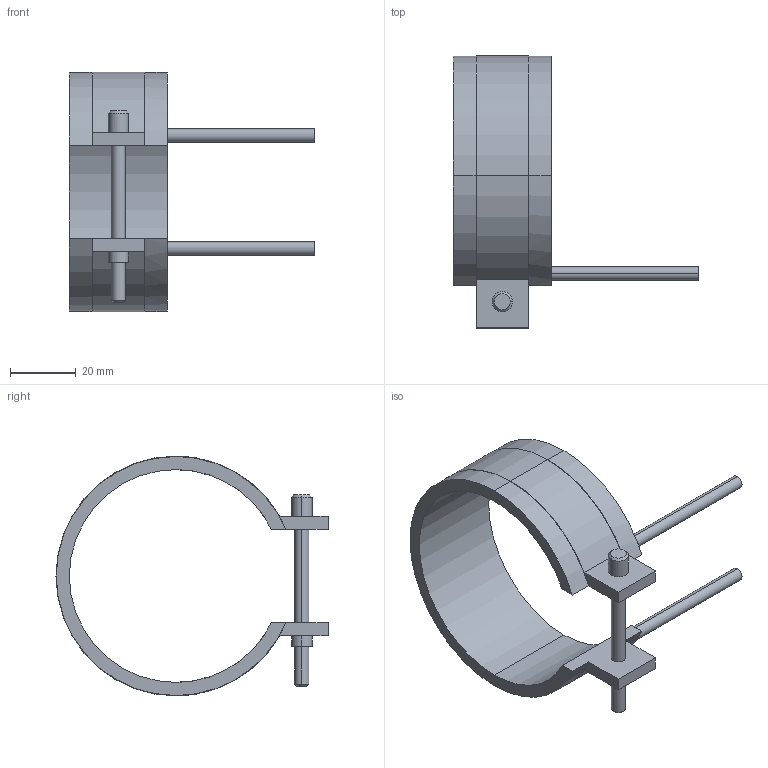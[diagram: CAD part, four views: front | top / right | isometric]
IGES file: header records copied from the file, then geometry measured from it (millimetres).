
Start section: START RECORD GO HERE.
Global section: file name: 14065030.igs; native system: DASSAULT SYSTEMES CATIA V5 R20 - www.3ds.com; preprocessor: CATIA Version 5 Release 20 ; author: Utente; organization: NB04-ASUS; date: 20210403.095718; units: millimetre
Bounding box: 75 x 83.1 x 73.2 mm (x, y, z)
Surface area: 15978 mm2 (no closed solid volume)
Topology: 0 solids, 0 shells, 45 faces, 232 edges, 232 vertices
Faces by surface type: revolution 28, plane 17
